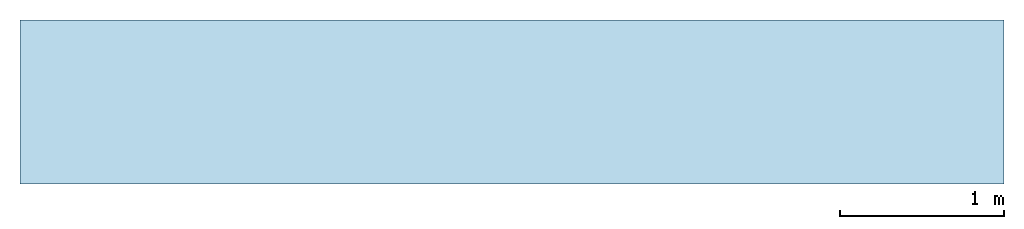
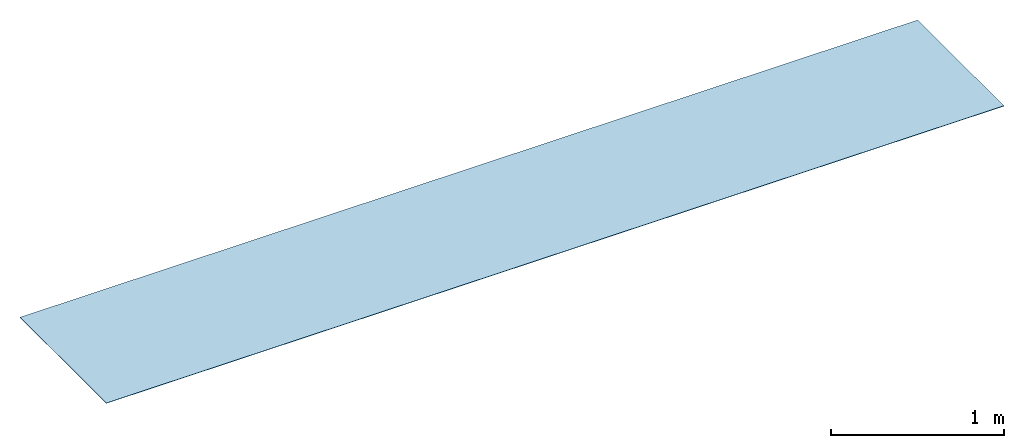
# One storey: 1 slab.
"""IFC2X3 building model written with IfcOpenShell, lengths in millimetres."""

from ifc_helpers import new_model, entity, si_unit, converted_unit, derived_unit, direction, frame, frame_2d, origin, place, context, subcontext, project, spatial, rectangle, extrude, material, layer, layer_set, layer_usage, element, save


model = new_model("IFC2X3")

# Units and contexts
model_context = context("Model", 3, precision=0.01, world=origin(), true_north=direction((6.12303176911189e-17, 1.0)))
context_of_model = context(None, 3, precision=0.01, world=origin(), true_north=direction((6.12303176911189e-17, 1.0)))
body_context = subcontext(model_context, "Body", "Model", "MODEL_VIEW")
ifc_project = project(units=[si_unit("LENGTHUNIT", "METRE", prefix="MILLI"), si_unit("AREAUNIT", "SQUARE_METRE"), si_unit("VOLUMEUNIT", "CUBIC_METRE"), converted_unit("PLANEANGLEUNIT", "DEGREE", entity("IfcRatioMeasure", 0.0174532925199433), si_unit("PLANEANGLEUNIT", "RADIAN"), dimensions=[0, 0, 0, 0, 0, 0, 0]), si_unit("MASSUNIT", "GRAM", prefix="KILO"), si_unit("TIMEUNIT", "SECOND"), si_unit("FREQUENCYUNIT", "HERTZ"), si_unit("THERMODYNAMICTEMPERATUREUNIT", "DEGREE_CELSIUS"), derived_unit("THERMALTRANSMITTANCEUNIT", [(si_unit("MASSUNIT", "GRAM", prefix="KILO"), 1), (si_unit("THERMODYNAMICTEMPERATUREUNIT", "KELVIN"), -1), (si_unit("TIMEUNIT", "SECOND"), -3)]), derived_unit("VOLUMETRICFLOWRATEUNIT", [(si_unit("LENGTHUNIT", "METRE"), 3), (si_unit("TIMEUNIT", "SECOND"), -1)]), si_unit("ELECTRICCURRENTUNIT", "AMPERE"), si_unit("ELECTRICVOLTAGEUNIT", "VOLT"), si_unit("POWERUNIT", "WATT"), si_unit("FORCEUNIT", "NEWTON", prefix="KILO"), si_unit("ILLUMINANCEUNIT", "LUX"), si_unit("LUMINOUSFLUXUNIT", "LUMEN"), si_unit("LUMINOUSINTENSITYUNIT", "CANDELA"), si_unit("PRESSUREUNIT", "PASCAL")], contexts=[model_context, context_of_model])

# Site, building, storey
site_placement = place(None, origin())
site = spatial("IfcSite", under=ifc_project, at=site_placement, Name="Default", CompositionType="ELEMENT")
building_placement = place(site_placement, origin())
building = spatial("IfcBuilding", under=site, at=building_placement, CompositionType="ELEMENT")
storey_placement = place(building_placement, origin())
storey = spatial("IfcBuildingStorey", under=building, at=storey_placement, Name="Уровень 1", CompositionType="ELEMENT", Elevation=0.0)

# Slab
ifc_material = material(Name="ROLS_ISOMARKET_Рулон ENERGOFLOOR COMPACT 3/1-30")
ifc_layer = layer(ifc_material, 3.0)
ifc_layer_set = layer_set([ifc_layer], Name="Перекрытие:ROLS_ISOMARKET_Рулон ENERGOFLOOR COMPACT 3/1-30")
ifc_layer_usage = layer_usage(ifc_layer_set, "AXIS3", "POSITIVE", 0.0)
slab_placement = place(storey_placement, origin())
element("IfcSlab", 1, at=slab_placement, inside=storey, material=ifc_layer_usage, Name="Перекрытие:ROLS_ISOMARKET_Рулон ENERGOFLOOR COMPACT 3/1-30", ObjectType="Перекрытие:ROLS_ISOMARKET_Рулон ENERGOFLOOR COMPACT 3/1-30", PredefinedType="FLOOR", context=body_context, shape_type="SweptSolid", body=[
    extrude(rectangle(XDim=1000.0, YDim=6000.0, at=frame_2d((-1.08002495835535e-12, 1.13686837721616e-12), x_axis=(1.0, 0.0))), frame((-14115.4270794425, 7602.16062637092, 0.0), z_axis=(0.0, 0.0, -1.0), x_axis=(0.0, 1.0, 0.0)), (0.0, 0.0, 1.0), 3.0),
])

save(model, "model.ifc")
